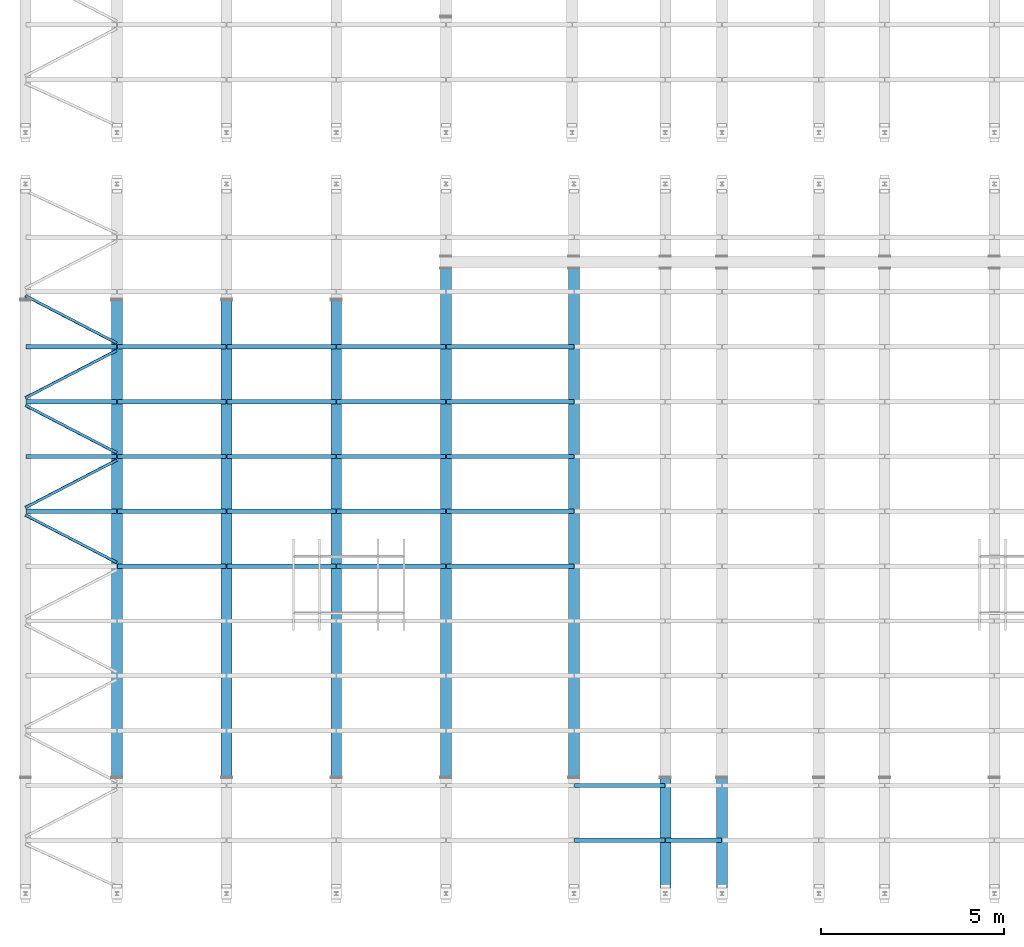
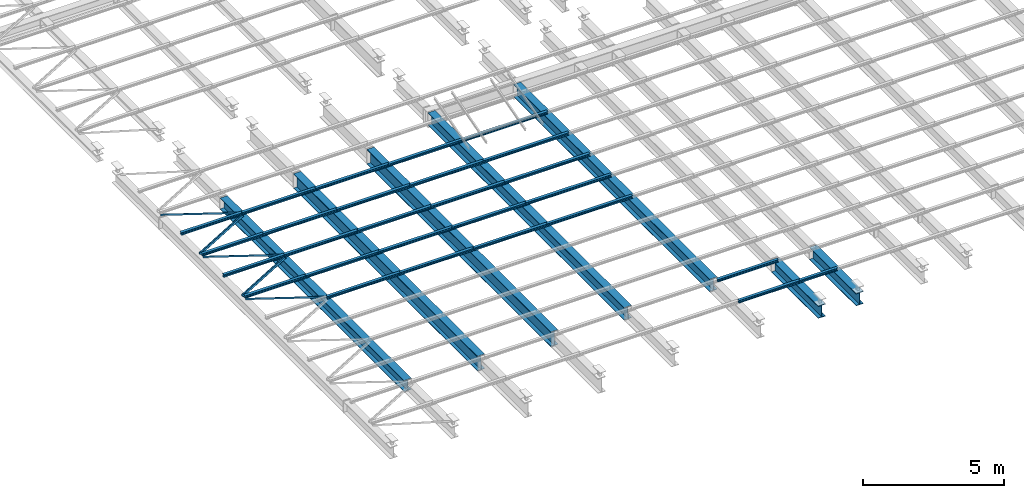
# One storey, part 37 of 139: 39 beams.
"""IFC2X3 building model written with IfcOpenShell, lengths in metres."""

from ifc_helpers import new_model, entity, si_unit, converted_unit, derived_unit, frame, origin, place, context, subcontext, project, spatial, polyline, outline, extrude, material, element, save


model = new_model("IFC2X3")

# Units and contexts
model_context = context("Model", 3, precision=1e-05, world=origin())
body_context = subcontext(model_context, "Body", "Model", "MODEL_VIEW")
ifc_project = project(units=[si_unit("LENGTHUNIT", "METRE"), si_unit("AREAUNIT", "SQUARE_METRE"), si_unit("VOLUMEUNIT", "CUBIC_METRE"), si_unit("MASSUNIT", "GRAM", prefix="KILO"), converted_unit("PLANEANGLEUNIT", "DEGREE", entity("IfcPlaneAngleMeasure", 0.0174532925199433), si_unit("PLANEANGLEUNIT", "RADIAN"), dimensions=[0, 0, 0, 0, 0, 0, 0]), derived_unit("THERMALTRANSMITTANCEUNIT", [(si_unit("POWERUNIT", "WATT"), 1), (si_unit("THERMODYNAMICTEMPERATUREUNIT", "KELVIN"), -1), (si_unit("LENGTHUNIT", "METRE"), -2)]), derived_unit("VOLUMETRICFLOWRATEUNIT", [(si_unit("LENGTHUNIT", "METRE"), 3), (converted_unit("TIMEUNIT", "hour", entity("IfcTimeMeasure", 3600.0), si_unit("TIMEUNIT", "SECOND"), dimensions=[0, 0, 1, 0, 0, 0, 0]), -1), (si_unit("LENGTHUNIT", "METRE"), -1)])], contexts=[model_context])

# Site, building, storey
site_placement = place(None, origin())
site = spatial("IfcSite", under=ifc_project, at=site_placement, Name="TWP_Speiseverteilzentrum SBW VZ II", CompositionType="ELEMENT")
building_placement = place(site_placement, origin())
building = spatial("IfcBuilding", under=site, at=building_placement, Name="Speiseverteilzentrum SBW VZ II", CompositionType="ELEMENT")
storey_placement = place(building_placement, frame((0.0, 0.0, 7.1307)))
storey = spatial("IfcBuildingStorey", under=building, at=storey_placement, Name="Wartung_FFB", CompositionType="ELEMENT", Elevation=7.1307)

# Beams
ifc_material_1 = material(Name="S235")
beam_1_placement = place(storey_placement, frame((13.0500000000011, 26.9020742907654, -0.435), z_axis=(0.0, 0.0, 1.0), x_axis=(-1.0, 0.0, 0.0)))
element("IfcBeam", 1, at=beam_1_placement, inside=storey, material=ifc_material_1, Name="Stahlträger", context=body_context, shape_type="SweptSolid", body=[
    extrude(outline(polyline([(-0.15, 0.245), (-0.15, 0.222), (-0.00599999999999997, 0.222), (-0.006, -0.222), (-0.15, -0.222), (-0.15, -0.245), (0.15, -0.245), (0.15, -0.222), (0.00600000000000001, -0.222), (0.00600000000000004, 0.222), (0.15, 0.222), (0.15, 0.245), (-0.15, 0.245)])), frame((0.0, 0.0, 0.0), z_axis=(0.0, 1.0, 0.0), x_axis=(-1.0, 0.0, 0.0)), (0.0, 0.0, 1.0), 13.014),
])
ifc_material_2 = material(Name="S235")
beam_2_placement = place(storey_placement, frame((16.0500000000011, 26.9020742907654, -0.51), z_axis=(0.0, 0.0, 1.0), x_axis=(-1.0, 0.0, 0.0)))
element("IfcBeam", 2, at=beam_2_placement, inside=storey, material=ifc_material_2, Name="Stahlträger", context=body_context, shape_type="SweptSolid", body=[
    extrude(outline(polyline([(-0.15, 0.32), (-0.15, 0.294), (-0.00675000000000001, 0.294), (-0.00675000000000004, -0.294), (-0.15, -0.294), (-0.15, -0.32), (0.15, -0.32), (0.15, -0.294), (0.00674999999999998, -0.294), (0.00675000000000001, 0.294), (0.15, 0.294), (0.15, 0.32), (-0.15, 0.32)])), frame((0.0, 0.0, 0.0), z_axis=(0.0, 1.0, 0.0), x_axis=(-1.0, 0.0, 0.0)), (0.0, 0.0, 1.0), 13.014),
])
ifc_material_3 = material(Name="S235")
beam_3_placement = place(storey_placement, frame((19.0500000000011, 26.9020742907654, -0.51), z_axis=(0.0, 0.0, 1.0), x_axis=(-1.0, 0.0, 0.0)))
element("IfcBeam", 3, at=beam_3_placement, inside=storey, material=ifc_material_3, Name="Stahlträger", context=body_context, shape_type="SweptSolid", body=[
    extrude(outline(polyline([(-0.15, 0.32), (-0.15, 0.294), (-0.00675000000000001, 0.294), (-0.00675000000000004, -0.294), (-0.15, -0.294), (-0.15, -0.32), (0.15, -0.32), (0.15, -0.294), (0.00674999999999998, -0.294), (0.00675000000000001, 0.294), (0.15, 0.294), (0.15, 0.32), (-0.15, 0.32)])), frame((0.0, 0.0, 0.0), z_axis=(0.0, 1.0, 0.0), x_axis=(-1.0, 0.0, 0.0)), (0.0, 0.0, 1.0), 13.014),
])
ifc_material_4 = material(Name="S235")
beam_4_placement = place(storey_placement, frame((25.5500000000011, 27.7849286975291, -0.46), z_axis=(0.0, 0.0, 1.0), x_axis=(-1.0, 0.0, 0.0)))
element("IfcBeam", 4, at=beam_4_placement, inside=storey, material=ifc_material_4, Name="Stahlträger", context=body_context, shape_type="SweptSolid", body=[
    extrude(outline(polyline([(-0.15, 0.27), (-0.15, 0.246), (-0.0062499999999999, 0.246), (-0.00624999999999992, -0.246), (-0.15, -0.246), (-0.15, -0.27), (0.15, -0.27), (0.15, -0.246), (0.00625000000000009, -0.246), (0.00625000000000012, 0.246), (0.15, 0.246), (0.15, 0.27), (-0.15, 0.27)])), frame((0.0, 0.0, 0.0), z_axis=(0.0, 1.0, 0.0), x_axis=(-1.0, 0.0, 0.0)), (0.0, 0.0, 1.0), 13.8968544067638),
])
ifc_material_5 = material(Name="S235")
beam_5_placement = place(storey_placement, frame((22.0500000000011, 27.7849286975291, -0.46), z_axis=(0.0, 0.0, 1.0), x_axis=(-1.0, 0.0, 0.0)))
element("IfcBeam", 5, at=beam_5_placement, inside=storey, material=ifc_material_5, Name="Stahlträger", context=body_context, shape_type="SweptSolid", body=[
    extrude(outline(polyline([(-0.15, 0.27), (-0.15, 0.246), (-0.0062499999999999, 0.246), (-0.00624999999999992, -0.246), (-0.15, -0.246), (-0.15, -0.27), (0.15, -0.27), (0.15, -0.246), (0.00625000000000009, -0.246), (0.00625000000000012, 0.246), (0.15, 0.246), (0.15, 0.27), (-0.15, 0.27)])), frame((0.0, 0.0, 0.0), z_axis=(0.0, 1.0, 0.0), x_axis=(-1.0, 0.0, 0.0)), (0.0, 0.0, 1.0), 13.8968544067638),
])
ifc_material_6 = material(Name="S235")
beam_6_placement = place(storey_placement, frame((28.0500000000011, 13.8380742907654, -0.46), z_axis=(0.0, 0.0, 1.0), x_axis=(-1.0, 0.0, 0.0)))
element("IfcBeam", 6, at=beam_6_placement, inside=storey, material=ifc_material_6, Name="Stahlträger", context=body_context, shape_type="SweptSolid", body=[
    extrude(outline(polyline([(-0.15, 0.27), (-0.15, 0.246), (-0.0062499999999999, 0.246), (-0.00624999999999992, -0.246), (-0.15, -0.246), (-0.15, -0.27), (0.15, -0.27), (0.15, -0.246), (0.00625000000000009, -0.246), (0.00625000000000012, 0.246), (0.15, 0.246), (0.15, 0.27), (-0.15, 0.27)])), frame((0.0, 0.0, 0.0), z_axis=(0.0, 1.0, 0.0), x_axis=(-1.0, 0.0, 0.0)), (0.0, 0.0, 1.0), 3.29792570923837),
])
ifc_material_7 = material(Name="S235")
beam_7_placement = place(storey_placement, frame((29.6000000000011, 13.8380742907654, -0.46), z_axis=(0.0, 0.0, 1.0), x_axis=(-1.0, 0.0, 0.0)))
element("IfcBeam", 7, at=beam_7_placement, inside=storey, material=ifc_material_7, Name="Stahlträger", context=body_context, shape_type="SweptSolid", body=[
    extrude(outline(polyline([(-0.15, 0.27), (-0.15, 0.246), (-0.0062499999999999, 0.246), (-0.00624999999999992, -0.246), (-0.15, -0.246), (-0.15, -0.27), (0.15, -0.27), (0.15, -0.246), (0.00625000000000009, -0.246), (0.00625000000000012, 0.246), (0.15, 0.246), (0.15, 0.27), (-0.15, 0.27)])), frame((0.0, 0.0, 0.0), z_axis=(0.0, 1.0, 0.0), x_axis=(-1.0, 0.0, 0.0)), (0.0, 0.0, 1.0), 3.29792570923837),
])
ifc_material_8 = material(Name="S235")
beam_8_placement = place(storey_placement, frame((13.0600000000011, 25.6450742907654, -0.133), z_axis=(0.0, 0.0, 1.0), x_axis=(0.0, -1.0, 0.0)))
element("IfcBeam", 8, at=beam_8_placement, inside=storey, material=ifc_material_8, Name="Nebenträger", context=body_context, shape_type="SweptSolid", body=[
    extrude(outline(polyline([(-0.06, 0.0570000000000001), (-0.06, 0.0490000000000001), (-0.00249999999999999, 0.0490000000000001), (-0.0025, -0.0489999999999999), (-0.06, -0.0489999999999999), (-0.06, -0.0569999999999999), (0.06, -0.0569999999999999), (0.06, -0.0489999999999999), (0.0025, -0.0489999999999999), (0.00250000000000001, 0.0490000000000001), (0.06, 0.0490000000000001), (0.06, 0.0570000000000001), (-0.06, 0.0570000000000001)])), frame((0.0, 0.0, 0.0), z_axis=(0.0, 1.0, 0.0), x_axis=(-1.0, 0.0, 0.0)), (0.0, 0.0, 1.0), 2.98),
])
ifc_material_9 = material(Name="S235")
beam_9_placement = place(storey_placement, frame((16.0600000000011, 25.6450742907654, -0.133), z_axis=(0.0, 0.0, 1.0), x_axis=(0.0, -1.0, 0.0)))
element("IfcBeam", 9, at=beam_9_placement, inside=storey, material=ifc_material_9, Name="Nebenträger", context=body_context, shape_type="SweptSolid", body=[
    extrude(outline(polyline([(-0.06, 0.0570000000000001), (-0.06, 0.0490000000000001), (-0.00249999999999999, 0.0490000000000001), (-0.0025, -0.0489999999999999), (-0.06, -0.0489999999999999), (-0.06, -0.0569999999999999), (0.06, -0.0569999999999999), (0.06, -0.0489999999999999), (0.0025, -0.0489999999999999), (0.00250000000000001, 0.0490000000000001), (0.06, 0.0490000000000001), (0.06, 0.0570000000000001), (-0.06, 0.0570000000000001)])), frame((0.0, 0.0, 0.0), z_axis=(0.0, 1.0, 0.0), x_axis=(-1.0, 0.0, 0.0)), (0.0, 0.0, 1.0), 2.98),
])
ifc_material_10 = material(Name="S235")
beam_10_placement = place(storey_placement, frame((19.0600000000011, 25.6450742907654, -0.133), z_axis=(0.0, 0.0, 1.0), x_axis=(0.0, -1.0, 0.0)))
element("IfcBeam", 10, at=beam_10_placement, inside=storey, material=ifc_material_10, Name="Nebenträger", context=body_context, shape_type="SweptSolid", body=[
    extrude(outline(polyline([(-0.06, 0.0570000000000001), (-0.06, 0.0490000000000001), (-0.00249999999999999, 0.0490000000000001), (-0.0025, -0.0489999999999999), (-0.06, -0.0489999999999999), (-0.06, -0.0569999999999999), (0.06, -0.0569999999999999), (0.06, -0.0489999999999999), (0.0025, -0.0489999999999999), (0.00250000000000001, 0.0490000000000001), (0.06, 0.0490000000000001), (0.06, 0.0570000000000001), (-0.06, 0.0570000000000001)])), frame((0.0, 0.0, 0.0), z_axis=(0.0, 1.0, 0.0), x_axis=(-1.0, 0.0, 0.0)), (0.0, 0.0, 1.0), 2.98),
])
ifc_material_11 = material(Name="S235")
beam_11_placement = place(storey_placement, frame((10.5600000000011, 25.6450742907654, -0.133), z_axis=(0.0, 0.0, 1.0), x_axis=(0.0, -1.0, 0.0)))
element("IfcBeam", 11, at=beam_11_placement, inside=storey, material=ifc_material_11, Name="Nebenträger", context=body_context, shape_type="SweptSolid", body=[
    extrude(outline(polyline([(-0.06, 0.0570000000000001), (-0.06, 0.0490000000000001), (-0.00249999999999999, 0.0490000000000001), (-0.0025, -0.0489999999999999), (-0.06, -0.0489999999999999), (-0.06, -0.0569999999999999), (0.06, -0.0569999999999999), (0.06, -0.0489999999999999), (0.0025, -0.0489999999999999), (0.00250000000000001, 0.0490000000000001), (0.06, 0.0490000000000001), (0.06, 0.0570000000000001), (-0.06, 0.0570000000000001)])), frame((0.0, 0.0, 0.0), z_axis=(0.0, 1.0, 0.0), x_axis=(-1.0, 0.0, 0.0)), (0.0, 0.0, 1.0), 2.48000000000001),
])
ifc_material_12 = material(Name="S235")
beam_12_placement = place(storey_placement, frame((13.0600000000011, 24.1450742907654, -0.133), z_axis=(0.0, 0.0, 1.0), x_axis=(0.0, -1.0, 0.0)))
element("IfcBeam", 12, at=beam_12_placement, inside=storey, material=ifc_material_12, Name="Nebenträger", context=body_context, shape_type="SweptSolid", body=[
    extrude(outline(polyline([(-0.06, 0.0570000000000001), (-0.06, 0.0490000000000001), (-0.00249999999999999, 0.0490000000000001), (-0.0025, -0.0489999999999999), (-0.06, -0.0489999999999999), (-0.06, -0.0569999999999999), (0.06, -0.0569999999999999), (0.06, -0.0489999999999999), (0.0025, -0.0489999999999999), (0.00250000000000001, 0.0490000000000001), (0.06, 0.0490000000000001), (0.06, 0.0570000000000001), (-0.06, 0.0570000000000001)])), frame((0.0, 0.0, 0.0), z_axis=(0.0, 1.0, 0.0), x_axis=(-1.0, 0.0, 0.0)), (0.0, 0.0, 1.0), 2.98),
])
ifc_material_13 = material(Name="S235")
beam_13_placement = place(storey_placement, frame((16.0600000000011, 24.1450742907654, -0.133), z_axis=(0.0, 0.0, 1.0), x_axis=(0.0, -1.0, 0.0)))
element("IfcBeam", 13, at=beam_13_placement, inside=storey, material=ifc_material_13, Name="Nebenträger", context=body_context, shape_type="SweptSolid", body=[
    extrude(outline(polyline([(-0.06, 0.0570000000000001), (-0.06, 0.0490000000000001), (-0.00249999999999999, 0.0490000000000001), (-0.0025, -0.0489999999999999), (-0.06, -0.0489999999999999), (-0.06, -0.0569999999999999), (0.06, -0.0569999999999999), (0.06, -0.0489999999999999), (0.0025, -0.0489999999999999), (0.00250000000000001, 0.0490000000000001), (0.06, 0.0490000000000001), (0.06, 0.0570000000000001), (-0.06, 0.0570000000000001)])), frame((0.0, 0.0, 0.0), z_axis=(0.0, 1.0, 0.0), x_axis=(-1.0, 0.0, 0.0)), (0.0, 0.0, 1.0), 2.98),
])
ifc_material_14 = material(Name="S235")
beam_14_placement = place(storey_placement, frame((19.0600000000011, 24.1450742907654, -0.133), z_axis=(0.0, 0.0, 1.0), x_axis=(0.0, -1.0, 0.0)))
element("IfcBeam", 14, at=beam_14_placement, inside=storey, material=ifc_material_14, Name="Nebenträger", context=body_context, shape_type="SweptSolid", body=[
    extrude(outline(polyline([(-0.06, 0.0570000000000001), (-0.06, 0.0490000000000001), (-0.00249999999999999, 0.0490000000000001), (-0.0025, -0.0489999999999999), (-0.06, -0.0489999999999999), (-0.06, -0.0569999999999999), (0.06, -0.0569999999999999), (0.06, -0.0489999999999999), (0.0025, -0.0489999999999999), (0.00250000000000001, 0.0490000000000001), (0.06, 0.0490000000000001), (0.06, 0.0570000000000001), (-0.06, 0.0570000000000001)])), frame((0.0, 0.0, 0.0), z_axis=(0.0, 1.0, 0.0), x_axis=(-1.0, 0.0, 0.0)), (0.0, 0.0, 1.0), 2.98),
])
ifc_material_15 = material(Name="S235")
beam_15_placement = place(storey_placement, frame((10.5600000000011, 24.1450742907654, -0.133), z_axis=(0.0, 0.0, 1.0), x_axis=(0.0, -1.0, 0.0)))
element("IfcBeam", 15, at=beam_15_placement, inside=storey, material=ifc_material_15, Name="Nebenträger", context=body_context, shape_type="SweptSolid", body=[
    extrude(outline(polyline([(-0.06, 0.0570000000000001), (-0.06, 0.0490000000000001), (-0.00249999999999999, 0.0490000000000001), (-0.0025, -0.0489999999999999), (-0.06, -0.0489999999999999), (-0.06, -0.0569999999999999), (0.06, -0.0569999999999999), (0.06, -0.0489999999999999), (0.0025, -0.0489999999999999), (0.00250000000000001, 0.0490000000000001), (0.06, 0.0490000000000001), (0.06, 0.0570000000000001), (-0.06, 0.0570000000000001)])), frame((0.0, 0.0, 0.0), z_axis=(0.0, 1.0, 0.0), x_axis=(-1.0, 0.0, 0.0)), (0.0, 0.0, 1.0), 2.48000000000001),
])
ifc_material_16 = material(Name="S235")
beam_16_placement = place(storey_placement, frame((13.0600000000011, 22.6450742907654, -0.133), z_axis=(0.0, 0.0, 1.0), x_axis=(0.0, -1.0, 0.0)))
element("IfcBeam", 16, at=beam_16_placement, inside=storey, material=ifc_material_16, Name="Nebenträger", context=body_context, shape_type="SweptSolid", body=[
    extrude(outline(polyline([(-0.06, 0.0570000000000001), (-0.06, 0.0490000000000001), (-0.00249999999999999, 0.0490000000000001), (-0.0025, -0.0489999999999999), (-0.06, -0.0489999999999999), (-0.06, -0.0569999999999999), (0.06, -0.0569999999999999), (0.06, -0.0489999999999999), (0.0025, -0.0489999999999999), (0.00250000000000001, 0.0490000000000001), (0.06, 0.0490000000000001), (0.06, 0.0570000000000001), (-0.06, 0.0570000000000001)])), frame((0.0, 0.0, 0.0), z_axis=(0.0, 1.0, 0.0), x_axis=(-1.0, 0.0, 0.0)), (0.0, 0.0, 1.0), 2.98),
])
ifc_material_17 = material(Name="S235")
beam_17_placement = place(storey_placement, frame((16.0600000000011, 22.6450742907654, -0.133), z_axis=(0.0, 0.0, 1.0), x_axis=(0.0, -1.0, 0.0)))
element("IfcBeam", 17, at=beam_17_placement, inside=storey, material=ifc_material_17, Name="Nebenträger", context=body_context, shape_type="SweptSolid", body=[
    extrude(outline(polyline([(-0.06, 0.0570000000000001), (-0.06, 0.0490000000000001), (-0.00249999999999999, 0.0490000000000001), (-0.0025, -0.0489999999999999), (-0.06, -0.0489999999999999), (-0.06, -0.0569999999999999), (0.06, -0.0569999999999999), (0.06, -0.0489999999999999), (0.0025, -0.0489999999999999), (0.00250000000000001, 0.0490000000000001), (0.06, 0.0490000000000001), (0.06, 0.0570000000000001), (-0.06, 0.0570000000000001)])), frame((0.0, 0.0, 0.0), z_axis=(0.0, 1.0, 0.0), x_axis=(-1.0, 0.0, 0.0)), (0.0, 0.0, 1.0), 2.98),
])
ifc_material_18 = material(Name="S235")
beam_18_placement = place(storey_placement, frame((19.0600000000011, 22.6450742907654, -0.133), z_axis=(0.0, 0.0, 1.0), x_axis=(0.0, -1.0, 0.0)))
element("IfcBeam", 18, at=beam_18_placement, inside=storey, material=ifc_material_18, Name="Nebenträger", context=body_context, shape_type="SweptSolid", body=[
    extrude(outline(polyline([(-0.06, 0.0570000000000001), (-0.06, 0.0490000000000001), (-0.00249999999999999, 0.0490000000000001), (-0.0025, -0.0489999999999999), (-0.06, -0.0489999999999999), (-0.06, -0.0569999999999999), (0.06, -0.0569999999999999), (0.06, -0.0489999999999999), (0.0025, -0.0489999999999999), (0.00250000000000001, 0.0490000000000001), (0.06, 0.0490000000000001), (0.06, 0.0570000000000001), (-0.06, 0.0570000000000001)])), frame((0.0, 0.0, 0.0), z_axis=(0.0, 1.0, 0.0), x_axis=(-1.0, 0.0, 0.0)), (0.0, 0.0, 1.0), 2.98),
])
ifc_material_19 = material(Name="S235")
beam_19_placement = place(storey_placement, frame((10.5600000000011, 22.6450742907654, -0.133), z_axis=(0.0, 0.0, 1.0), x_axis=(0.0, -1.0, 0.0)))
element("IfcBeam", 19, at=beam_19_placement, inside=storey, material=ifc_material_19, Name="Nebenträger", context=body_context, shape_type="SweptSolid", body=[
    extrude(outline(polyline([(-0.06, 0.0570000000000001), (-0.06, 0.0490000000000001), (-0.00249999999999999, 0.0490000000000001), (-0.0025, -0.0489999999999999), (-0.06, -0.0489999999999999), (-0.06, -0.0569999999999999), (0.06, -0.0569999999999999), (0.06, -0.0489999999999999), (0.0025, -0.0489999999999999), (0.00250000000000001, 0.0490000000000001), (0.06, 0.0490000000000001), (0.06, 0.0570000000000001), (-0.06, 0.0570000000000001)])), frame((0.0, 0.0, 0.0), z_axis=(0.0, 1.0, 0.0), x_axis=(-1.0, 0.0, 0.0)), (0.0, 0.0, 1.0), 2.48000000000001),
])
ifc_material_20 = material(Name="S235")
beam_20_placement = place(storey_placement, frame((13.0600000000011, 21.1450742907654, -0.133), z_axis=(0.0, 0.0, 1.0), x_axis=(0.0, -1.0, 0.0)))
element("IfcBeam", 20, at=beam_20_placement, inside=storey, material=ifc_material_20, Name="Nebenträger", context=body_context, shape_type="SweptSolid", body=[
    extrude(outline(polyline([(-0.06, 0.0570000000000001), (-0.06, 0.0490000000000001), (-0.00249999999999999, 0.0490000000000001), (-0.0025, -0.0489999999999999), (-0.06, -0.0489999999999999), (-0.06, -0.0569999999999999), (0.06, -0.0569999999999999), (0.06, -0.0489999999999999), (0.0025, -0.0489999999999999), (0.00250000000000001, 0.0490000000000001), (0.06, 0.0490000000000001), (0.06, 0.0570000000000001), (-0.06, 0.0570000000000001)])), frame((0.0, 0.0, 0.0), z_axis=(0.0, 1.0, 0.0), x_axis=(-1.0, 0.0, 0.0)), (0.0, 0.0, 1.0), 2.98),
])
ifc_material_21 = material(Name="S235")
beam_21_placement = place(storey_placement, frame((16.0600000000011, 21.1450742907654, -0.133), z_axis=(0.0, 0.0, 1.0), x_axis=(0.0, -1.0, 0.0)))
element("IfcBeam", 21, at=beam_21_placement, inside=storey, material=ifc_material_21, Name="Nebenträger", context=body_context, shape_type="SweptSolid", body=[
    extrude(outline(polyline([(-0.06, 0.0570000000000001), (-0.06, 0.0490000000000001), (-0.00249999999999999, 0.0490000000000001), (-0.0025, -0.0489999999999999), (-0.06, -0.0489999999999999), (-0.06, -0.0569999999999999), (0.06, -0.0569999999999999), (0.06, -0.0489999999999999), (0.0025, -0.0489999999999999), (0.00250000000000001, 0.0490000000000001), (0.06, 0.0490000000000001), (0.06, 0.0570000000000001), (-0.06, 0.0570000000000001)])), frame((0.0, 0.0, 0.0), z_axis=(0.0, 1.0, 0.0), x_axis=(-1.0, 0.0, 0.0)), (0.0, 0.0, 1.0), 2.98),
])
ifc_material_22 = material(Name="S235")
beam_22_placement = place(storey_placement, frame((19.0600000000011, 21.1450742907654, -0.133), z_axis=(0.0, 0.0, 1.0), x_axis=(0.0, -1.0, 0.0)))
element("IfcBeam", 22, at=beam_22_placement, inside=storey, material=ifc_material_22, Name="Nebenträger", context=body_context, shape_type="SweptSolid", body=[
    extrude(outline(polyline([(-0.06, 0.0570000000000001), (-0.06, 0.0490000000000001), (-0.00249999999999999, 0.0490000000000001), (-0.0025, -0.0489999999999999), (-0.06, -0.0489999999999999), (-0.06, -0.0569999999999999), (0.06, -0.0569999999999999), (0.06, -0.0489999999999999), (0.0025, -0.0489999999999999), (0.00250000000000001, 0.0490000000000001), (0.06, 0.0490000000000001), (0.06, 0.0570000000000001), (-0.06, 0.0570000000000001)])), frame((0.0, 0.0, 0.0), z_axis=(0.0, 1.0, 0.0), x_axis=(-1.0, 0.0, 0.0)), (0.0, 0.0, 1.0), 2.98),
])
ifc_material_23 = material(Name="S235")
beam_23_placement = place(storey_placement, frame((10.5600000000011, 21.1450742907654, -0.133), z_axis=(0.0, 0.0, 1.0), x_axis=(0.0, -1.0, 0.0)))
element("IfcBeam", 23, at=beam_23_placement, inside=storey, material=ifc_material_23, Name="Nebenträger", context=body_context, shape_type="SweptSolid", body=[
    extrude(outline(polyline([(-0.06, 0.0570000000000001), (-0.06, 0.0490000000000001), (-0.00249999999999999, 0.0490000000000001), (-0.0025, -0.0489999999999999), (-0.06, -0.0489999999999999), (-0.06, -0.0569999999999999), (0.06, -0.0569999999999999), (0.06, -0.0489999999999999), (0.0025, -0.0489999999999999), (0.00250000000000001, 0.0490000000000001), (0.06, 0.0490000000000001), (0.06, 0.0570000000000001), (-0.06, 0.0570000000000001)])), frame((0.0, 0.0, 0.0), z_axis=(0.0, 1.0, 0.0), x_axis=(-1.0, 0.0, 0.0)), (0.0, 0.0, 1.0), 2.48000000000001),
])
ifc_material_24 = material(Name="S235")
beam_24_placement = place(storey_placement, frame((13.0600000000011, 19.6450742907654, -0.133), z_axis=(0.0, 0.0, 1.0), x_axis=(0.0, -1.0, 0.0)))
element("IfcBeam", 24, at=beam_24_placement, inside=storey, material=ifc_material_24, Name="Nebenträger", context=body_context, shape_type="SweptSolid", body=[
    extrude(outline(polyline([(-0.06, 0.0570000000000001), (-0.06, 0.0490000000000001), (-0.00249999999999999, 0.0490000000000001), (-0.0025, -0.0489999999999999), (-0.06, -0.0489999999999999), (-0.06, -0.0569999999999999), (0.06, -0.0569999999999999), (0.06, -0.0489999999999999), (0.0025, -0.0489999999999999), (0.00250000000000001, 0.0490000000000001), (0.06, 0.0490000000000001), (0.06, 0.0570000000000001), (-0.06, 0.0570000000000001)])), frame((0.0, 0.0, 0.0), z_axis=(0.0, 1.0, 0.0), x_axis=(-1.0, 0.0, 0.0)), (0.0, 0.0, 1.0), 2.98),
])
ifc_material_25 = material(Name="S235")
beam_25_placement = place(storey_placement, frame((16.0600000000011, 19.6450742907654, -0.133), z_axis=(0.0, 0.0, 1.0), x_axis=(0.0, -1.0, 0.0)))
element("IfcBeam", 25, at=beam_25_placement, inside=storey, material=ifc_material_25, Name="Nebenträger", context=body_context, shape_type="SweptSolid", body=[
    extrude(outline(polyline([(-0.06, 0.0570000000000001), (-0.06, 0.0490000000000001), (-0.00249999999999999, 0.0490000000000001), (-0.0025, -0.0489999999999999), (-0.06, -0.0489999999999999), (-0.06, -0.0569999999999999), (0.06, -0.0569999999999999), (0.06, -0.0489999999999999), (0.0025, -0.0489999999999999), (0.00250000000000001, 0.0490000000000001), (0.06, 0.0490000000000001), (0.06, 0.0570000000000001), (-0.06, 0.0570000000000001)])), frame((0.0, 0.0, 0.0), z_axis=(0.0, 1.0, 0.0), x_axis=(-1.0, 0.0, 0.0)), (0.0, 0.0, 1.0), 2.98),
])
ifc_material_26 = material(Name="S235")
beam_26_placement = place(storey_placement, frame((19.0600000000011, 19.6450742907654, -0.133), z_axis=(0.0, 0.0, 1.0), x_axis=(0.0, -1.0, 0.0)))
element("IfcBeam", 26, at=beam_26_placement, inside=storey, material=ifc_material_26, Name="Nebenträger", context=body_context, shape_type="SweptSolid", body=[
    extrude(outline(polyline([(-0.06, 0.0570000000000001), (-0.06, 0.0490000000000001), (-0.00249999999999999, 0.0490000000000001), (-0.0025, -0.0489999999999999), (-0.06, -0.0489999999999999), (-0.06, -0.0569999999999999), (0.06, -0.0569999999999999), (0.06, -0.0489999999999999), (0.0025, -0.0489999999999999), (0.00250000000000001, 0.0490000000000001), (0.06, 0.0490000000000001), (0.06, 0.0570000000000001), (-0.06, 0.0570000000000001)])), frame((0.0, 0.0, 0.0), z_axis=(0.0, 1.0, 0.0), x_axis=(-1.0, 0.0, 0.0)), (0.0, 0.0, 1.0), 2.98),
])
ifc_material_27 = material(Name="S235")
beam_27_placement = place(storey_placement, frame((22.0600000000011, 25.6450742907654, -0.133), z_axis=(0.0, 0.0, 1.0), x_axis=(0.0, -1.0, 0.0)))
element("IfcBeam", 27, at=beam_27_placement, inside=storey, material=ifc_material_27, Name="Nebenträger", context=body_context, shape_type="SweptSolid", body=[
    extrude(outline(polyline([(-0.06, 0.0570000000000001), (-0.06, 0.0490000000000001), (-0.00249999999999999, 0.0490000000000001), (-0.0025, -0.0489999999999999), (-0.06, -0.0489999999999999), (-0.06, -0.0569999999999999), (0.06, -0.0569999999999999), (0.06, -0.0489999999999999), (0.0025, -0.0489999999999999), (0.00250000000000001, 0.0490000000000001), (0.06, 0.0490000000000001), (0.06, 0.0570000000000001), (-0.06, 0.0570000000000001)])), frame((0.0, 0.0, 0.0), z_axis=(0.0, 1.0, 0.0), x_axis=(-1.0, 0.0, 0.0)), (0.0, 0.0, 1.0), 3.48625),
])
ifc_material_28 = material(Name="S235")
beam_28_placement = place(storey_placement, frame((22.0600000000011, 24.1450742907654, -0.133), z_axis=(0.0, 0.0, 1.0), x_axis=(0.0, -1.0, 0.0)))
element("IfcBeam", 28, at=beam_28_placement, inside=storey, material=ifc_material_28, Name="Nebenträger", context=body_context, shape_type="SweptSolid", body=[
    extrude(outline(polyline([(-0.06, 0.0570000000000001), (-0.06, 0.0490000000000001), (-0.00249999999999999, 0.0490000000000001), (-0.0025, -0.0489999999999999), (-0.06, -0.0489999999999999), (-0.06, -0.0569999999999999), (0.06, -0.0569999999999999), (0.06, -0.0489999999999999), (0.0025, -0.0489999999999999), (0.00250000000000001, 0.0490000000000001), (0.06, 0.0490000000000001), (0.06, 0.0570000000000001), (-0.06, 0.0570000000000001)])), frame((0.0, 0.0, 0.0), z_axis=(0.0, 1.0, 0.0), x_axis=(-1.0, 0.0, 0.0)), (0.0, 0.0, 1.0), 3.48625),
])
ifc_material_29 = material(Name="S235")
beam_29_placement = place(storey_placement, frame((22.0600000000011, 22.6450742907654, -0.133), z_axis=(0.0, 0.0, 1.0), x_axis=(0.0, -1.0, 0.0)))
element("IfcBeam", 29, at=beam_29_placement, inside=storey, material=ifc_material_29, Name="Nebenträger", context=body_context, shape_type="SweptSolid", body=[
    extrude(outline(polyline([(-0.06, 0.0570000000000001), (-0.06, 0.0490000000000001), (-0.00249999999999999, 0.0490000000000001), (-0.0025, -0.0489999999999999), (-0.06, -0.0489999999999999), (-0.06, -0.0569999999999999), (0.06, -0.0569999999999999), (0.06, -0.0489999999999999), (0.0025, -0.0489999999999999), (0.00250000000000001, 0.0490000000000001), (0.06, 0.0490000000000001), (0.06, 0.0570000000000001), (-0.06, 0.0570000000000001)])), frame((0.0, 0.0, 0.0), z_axis=(0.0, 1.0, 0.0), x_axis=(-1.0, 0.0, 0.0)), (0.0, 0.0, 1.0), 3.48625),
])
ifc_material_30 = material(Name="S235")
beam_30_placement = place(storey_placement, frame((22.0600000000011, 21.1450742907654, -0.133), z_axis=(0.0, 0.0, 1.0), x_axis=(0.0, -1.0, 0.0)))
element("IfcBeam", 30, at=beam_30_placement, inside=storey, material=ifc_material_30, Name="Nebenträger", context=body_context, shape_type="SweptSolid", body=[
    extrude(outline(polyline([(-0.06, 0.0570000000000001), (-0.06, 0.0490000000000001), (-0.00249999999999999, 0.0490000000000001), (-0.0025, -0.0489999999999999), (-0.06, -0.0489999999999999), (-0.06, -0.0569999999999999), (0.06, -0.0569999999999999), (0.06, -0.0489999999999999), (0.0025, -0.0489999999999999), (0.00250000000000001, 0.0490000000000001), (0.06, 0.0490000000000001), (0.06, 0.0570000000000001), (-0.06, 0.0570000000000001)])), frame((0.0, 0.0, 0.0), z_axis=(0.0, 1.0, 0.0), x_axis=(-1.0, 0.0, 0.0)), (0.0, 0.0, 1.0), 3.48625),
])
ifc_material_31 = material(Name="S235")
beam_31_placement = place(storey_placement, frame((22.0600000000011, 19.6450742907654, -0.133), z_axis=(0.0, 0.0, 1.0), x_axis=(0.0, -1.0, 0.0)))
element("IfcBeam", 31, at=beam_31_placement, inside=storey, material=ifc_material_31, Name="Nebenträger", context=body_context, shape_type="SweptSolid", body=[
    extrude(outline(polyline([(-0.06, 0.0570000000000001), (-0.06, 0.0490000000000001), (-0.00249999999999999, 0.0490000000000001), (-0.0025, -0.0489999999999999), (-0.06, -0.0489999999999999), (-0.06, -0.0569999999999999), (0.06, -0.0569999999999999), (0.06, -0.0489999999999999), (0.0025, -0.0489999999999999), (0.00250000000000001, 0.0490000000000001), (0.06, 0.0490000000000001), (0.06, 0.0570000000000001), (-0.06, 0.0570000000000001)])), frame((0.0, 0.0, 0.0), z_axis=(0.0, 1.0, 0.0), x_axis=(-1.0, 0.0, 0.0)), (0.0, 0.0, 1.0), 3.48625),
])
ifc_material_32 = material(Name="S235")
beam_32_placement = place(storey_placement, frame((25.5662500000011, 13.6450742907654, -0.133), z_axis=(0.0, 0.0, 1.0), x_axis=(0.0, -1.0, 0.0)))
element("IfcBeam", 32, at=beam_32_placement, inside=storey, material=ifc_material_32, Name="Nebenträger", context=body_context, shape_type="SweptSolid", body=[
    extrude(outline(polyline([(-0.06, 0.0570000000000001), (-0.06, 0.0490000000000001), (-0.00249999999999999, 0.0490000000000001), (-0.0025, -0.0489999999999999), (-0.06, -0.0489999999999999), (-0.06, -0.0569999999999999), (0.06, -0.0569999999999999), (0.06, -0.0489999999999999), (0.0025, -0.0489999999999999), (0.00250000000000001, 0.0490000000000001), (0.06, 0.0490000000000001), (0.06, 0.0570000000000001), (-0.06, 0.0570000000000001)])), frame((0.0, 0.0, 0.0), z_axis=(0.0, 1.0, 0.0), x_axis=(-1.0, 0.0, 0.0)), (0.0, 0.0, 1.0), 2.47375),
])
ifc_material_33 = material(Name="S235")
beam_33_placement = place(storey_placement, frame((25.5662500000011, 12.1450742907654, -0.133), z_axis=(0.0, 0.0, 1.0), x_axis=(0.0, -1.0, 0.0)))
element("IfcBeam", 33, at=beam_33_placement, inside=storey, material=ifc_material_33, Name="Nebenträger", context=body_context, shape_type="SweptSolid", body=[
    extrude(outline(polyline([(-0.06, 0.0570000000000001), (-0.06, 0.0490000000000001), (-0.00249999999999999, 0.0490000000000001), (-0.0025, -0.0489999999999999), (-0.06, -0.0489999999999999), (-0.06, -0.0569999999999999), (0.06, -0.0569999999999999), (0.06, -0.0489999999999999), (0.0025, -0.0489999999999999), (0.00250000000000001, 0.0490000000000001), (0.06, 0.0490000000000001), (0.06, 0.0570000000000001), (-0.06, 0.0570000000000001)])), frame((0.0, 0.0, 0.0), z_axis=(0.0, 1.0, 0.0), x_axis=(-1.0, 0.0, 0.0)), (0.0, 0.0, 1.0), 2.47375),
])
ifc_material_34 = material(Name="S235")
beam_34_placement = place(storey_placement, frame((28.0600000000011, 12.1450742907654, -0.133), z_axis=(0.0, 0.0, 1.0), x_axis=(0.0, -1.0, 0.0)))
element("IfcBeam", 34, at=beam_34_placement, inside=storey, material=ifc_material_34, Name="Nebenträger", context=body_context, shape_type="SweptSolid", body=[
    extrude(outline(polyline([(-0.06, 0.0570000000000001), (-0.06, 0.0490000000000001), (-0.00249999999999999, 0.0490000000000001), (-0.0025, -0.0489999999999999), (-0.06, -0.0489999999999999), (-0.06, -0.0569999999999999), (0.06, -0.0569999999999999), (0.06, -0.0489999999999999), (0.0025, -0.0489999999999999), (0.00250000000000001, 0.0490000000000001), (0.06, 0.0490000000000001), (0.06, 0.0570000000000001), (-0.06, 0.0570000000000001)])), frame((0.0, 0.0, 0.0), z_axis=(0.0, 1.0, 0.0), x_axis=(-1.0, 0.0, 0.0)), (0.0, 0.0, 1.0), 1.52999999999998),
])
ifc_material_35 = material(Name="S235")
beam_35_placement = place(storey_placement, frame((10.5365784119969, 27.0282558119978, -0.167052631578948), z_axis=(0.0, 0.0, 1.0), x_axis=(-0.4612662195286, -0.887261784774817, 0.0)))
element("IfcBeam", 35, at=beam_35_placement, inside=storey, material=ifc_material_35, Name="Kreuzverband", context=body_context, shape_type="SweptSolid", body=[
    extrude(outline(polyline([(0.0570526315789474, -0.0229473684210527), (0.0570526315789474, -0.0149473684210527), (-0.0149473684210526, -0.0149473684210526), (-0.0149473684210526, 0.0570526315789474), (-0.0229473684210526, 0.0570526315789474), (-0.0229473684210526, -0.0229473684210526), (0.0570526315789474, -0.0229473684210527)])), frame((0.0, 0.0, 0.0), z_axis=(0.0, 1.00000000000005, 0.0), x_axis=(-1.0, 0.0, 0.0)), (0.0, 0.0, 1.0), 2.82000000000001),
])
ifc_material_36 = material(Name="S235")
beam_36_placement = place(storey_placement, frame((10.5365784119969, 24.2618927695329, -0.167052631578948), z_axis=(0.0, 0.0, 1.0), x_axis=(0.4612662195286, -0.887261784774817, 0.0)))
element("IfcBeam", 36, at=beam_36_placement, inside=storey, material=ifc_material_36, Name="Kreuzverband", context=body_context, shape_type="SweptSolid", body=[
    extrude(outline(polyline([(0.0229473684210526, -0.0229473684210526), (0.0229473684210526, 0.0570526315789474), (0.0149473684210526, 0.0570526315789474), (0.0149473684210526, -0.0149473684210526), (-0.0570526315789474, -0.0149473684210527), (-0.0570526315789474, -0.0229473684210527), (0.0229473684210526, -0.0229473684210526)])), frame((0.0, 0.0, 0.0), z_axis=(0.0, 1.00000000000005, 0.0), x_axis=(-1.0, 0.0, 0.0)), (0.0, 0.0, 1.0), 2.82000000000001),
])
ifc_material_37 = material(Name="S235")
beam_37_placement = place(storey_placement, frame((10.5365784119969, 24.0282558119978, -0.167052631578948), z_axis=(0.0, 0.0, 1.0), x_axis=(-0.4612662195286, -0.887261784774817, 0.0)))
element("IfcBeam", 37, at=beam_37_placement, inside=storey, material=ifc_material_37, Name="Kreuzverband", context=body_context, shape_type="SweptSolid", body=[
    extrude(outline(polyline([(0.0570526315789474, -0.0229473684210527), (0.0570526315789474, -0.0149473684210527), (-0.0149473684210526, -0.0149473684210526), (-0.0149473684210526, 0.0570526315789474), (-0.0229473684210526, 0.0570526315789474), (-0.0229473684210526, -0.0229473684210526), (0.0570526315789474, -0.0229473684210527)])), frame((0.0, 0.0, 0.0), z_axis=(0.0, 1.00000000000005, 0.0), x_axis=(-1.0, 0.0, 0.0)), (0.0, 0.0, 1.0), 2.82000000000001),
])
ifc_material_38 = material(Name="S235")
beam_38_placement = place(storey_placement, frame((10.5365784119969, 21.2618927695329, -0.167052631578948), z_axis=(0.0, 0.0, 1.0), x_axis=(0.4612662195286, -0.887261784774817, 0.0)))
element("IfcBeam", 38, at=beam_38_placement, inside=storey, material=ifc_material_38, Name="Kreuzverband", context=body_context, shape_type="SweptSolid", body=[
    extrude(outline(polyline([(0.0229473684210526, -0.0229473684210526), (0.0229473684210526, 0.0570526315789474), (0.0149473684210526, 0.0570526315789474), (0.0149473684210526, -0.0149473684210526), (-0.0570526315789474, -0.0149473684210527), (-0.0570526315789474, -0.0229473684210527), (0.0229473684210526, -0.0229473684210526)])), frame((0.0, 0.0, 0.0), z_axis=(0.0, 1.00000000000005, 0.0), x_axis=(-1.0, 0.0, 0.0)), (0.0, 0.0, 1.0), 2.82000000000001),
])
ifc_material_39 = material(Name="S235")
beam_39_placement = place(storey_placement, frame((10.5365784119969, 21.0282558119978, -0.167052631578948), z_axis=(0.0, 0.0, 1.0), x_axis=(-0.4612662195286, -0.887261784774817, 0.0)))
element("IfcBeam", 39, at=beam_39_placement, inside=storey, material=ifc_material_39, Name="Kreuzverband", context=body_context, shape_type="SweptSolid", body=[
    extrude(outline(polyline([(0.0570526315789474, -0.0229473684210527), (0.0570526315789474, -0.0149473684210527), (-0.0149473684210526, -0.0149473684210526), (-0.0149473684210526, 0.0570526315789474), (-0.0229473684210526, 0.0570526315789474), (-0.0229473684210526, -0.0229473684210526), (0.0570526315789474, -0.0229473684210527)])), frame((0.0, 0.0, 0.0), z_axis=(0.0, 1.00000000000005, 0.0), x_axis=(-1.0, 0.0, 0.0)), (0.0, 0.0, 1.0), 2.82000000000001),
])

save(model, "model.ifc")
